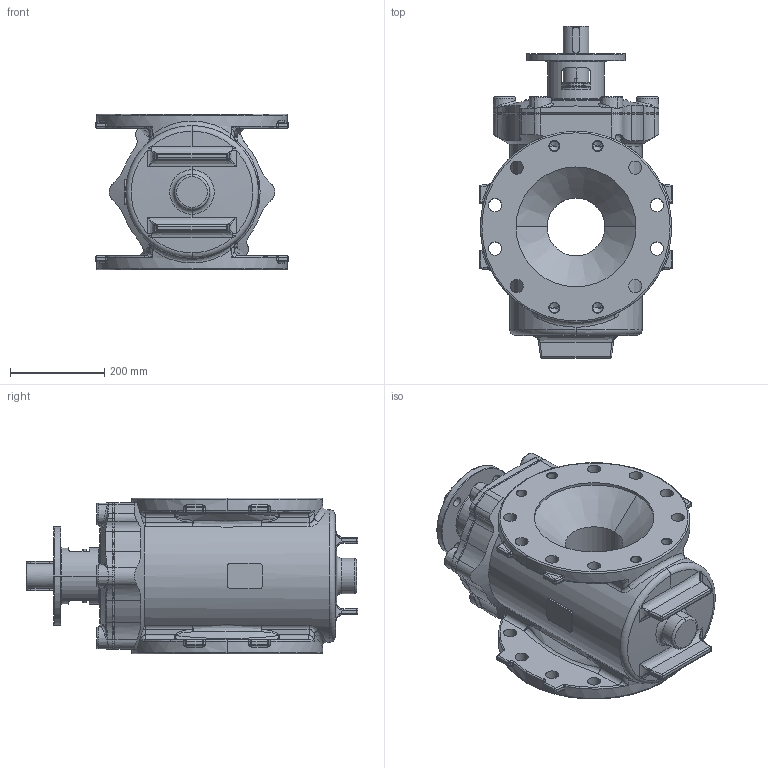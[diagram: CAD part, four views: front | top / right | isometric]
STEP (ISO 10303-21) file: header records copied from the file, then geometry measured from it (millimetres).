
FILE_DESCRIPTION (( 'STEP AP203' ), '1' );
FILE_NAME ('O_764_01_DN250_1XXXXXX000_REV02.step', '2021-02-03T09:00:57', ( '' ), ( '' ), 'SwSTEP 2.0', 'SolidWorks 2019', '' );
FILE_SCHEMA (( 'CONFIG_CONTROL_DESIGN' ));
Length unit declared in the file: millimetre
Products named in the file (1): O_764_01_DN250_1XXXXXX000_REV02
Bounding box: 409 x 703.5 x 330 mm (x, y, z)
Volume: 35991281.9 mm3; surface area: 1217290.3 mm2
Topology: 1 solids, 1 shells, 863 faces, 2045 edges, 1155 vertices
Faces by surface type: cylinder 291, plane 154, bspline 149, torus 133, cone 80, sphere 56
Entity records: 36045 total; most frequent: CARTESIAN_POINT 17105, DIRECTION 3993, ORIENTED_EDGE 3990, EDGE_CURVE 1995, AXIS2_PLACEMENT_3D 1683, VERTEX_POINT 1155, CIRCLE 968, EDGE_LOOP 938
